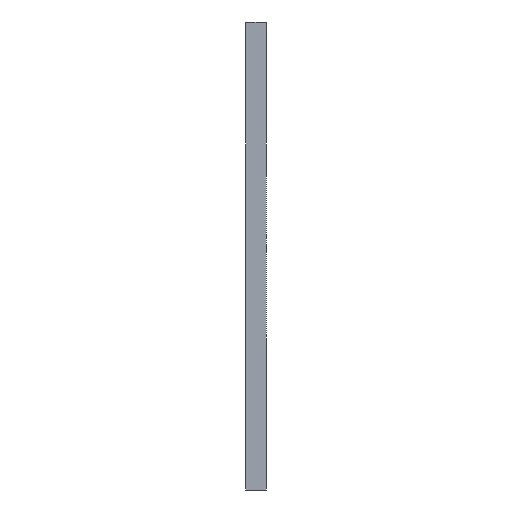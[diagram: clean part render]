
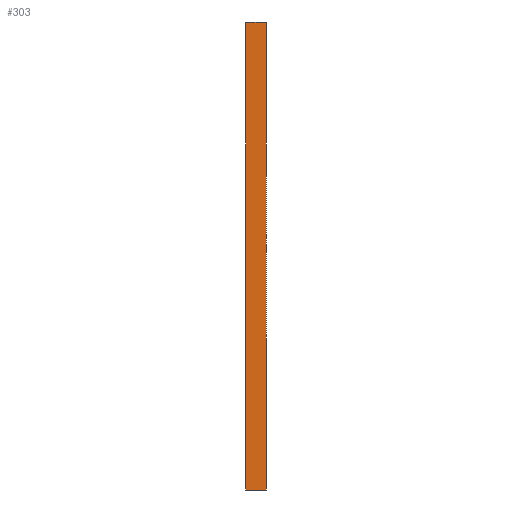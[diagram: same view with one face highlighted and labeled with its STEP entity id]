
A CAD part, left-side view. The second image highlights one B-rep face of the part: STEP entity #303.
In plain terms, the highlighted planar face has unit normal (-1, 0, 0).
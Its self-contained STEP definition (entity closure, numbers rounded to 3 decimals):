
#9 = VERTEX_POINT ( 'NONE', #1034 ) ;
#33 = EDGE_CURVE ( 'NONE', #895, #436, #853, .T. ) ;
#61 = EDGE_CURVE ( 'NONE', #539, #895, #1060, .T. ) ;
#150 = DIRECTION ( 'NONE',  ( 0., 1., 0. ) ) ;
#234 = EDGE_CURVE ( 'NONE', #9, #436, #673, .T. ) ;
#248 = PLANE ( 'NONE',  #888 ) ;
#259 = VECTOR ( 'NONE', #345, 1000. ) ;
#303 = ADVANCED_FACE ( 'NONE', ( #518 ), #248, .T. ) ;
#345 = DIRECTION ( 'NONE',  ( 0., 0., 1. ) ) ;
#365 = ORIENTED_EDGE ( 'NONE', *, *, #61, .T. ) ;
#436 = VERTEX_POINT ( 'NONE', #897 ) ;
#457 = DIRECTION ( 'NONE',  ( 0., 0., 1. ) ) ;
#490 = EDGE_CURVE ( 'NONE', #539, #9, #974, .T. ) ;
#518 = FACE_OUTER_BOUND ( 'NONE', #877, .T. ) ;
#539 = VERTEX_POINT ( 'NONE', #598 ) ;
#552 = CARTESIAN_POINT ( 'NONE',  ( -255.5, -20., -404. ) ) ;
#576 = ORIENTED_EDGE ( 'NONE', *, *, #33, .T. ) ;
#598 = CARTESIAN_POINT ( 'NONE',  ( -255.5, -20., -404. ) ) ;
#609 = CARTESIAN_POINT ( 'NONE',  ( -255.5, -20., 50. ) ) ;
#673 = LINE ( 'NONE', #1025, #259 ) ;
#707 = VECTOR ( 'NONE', #457, 1000. ) ;
#728 = ORIENTED_EDGE ( 'NONE', *, *, #490, .F. ) ;
#759 = ORIENTED_EDGE ( 'NONE', *, *, #234, .F. ) ;
#769 = DIRECTION ( 'NONE',  ( -1., 0., 0. ) ) ;
#828 = VECTOR ( 'NONE', #150, 1000. ) ;
#849 = CARTESIAN_POINT ( 'NONE',  ( -255.5, -20., 50. ) ) ;
#853 = LINE ( 'NONE', #609, #828 ) ;
#856 = CARTESIAN_POINT ( 'NONE',  ( -255.5, -20., -404. ) ) ;
#877 = EDGE_LOOP ( 'NONE', ( #759, #728, #365, #576 ) ) ;
#888 = AXIS2_PLACEMENT_3D ( 'NONE', #856, #769, #925 ) ;
#892 = DIRECTION ( 'NONE',  ( 0., 1., 0. ) ) ;
#895 = VERTEX_POINT ( 'NONE', #849 ) ;
#897 = CARTESIAN_POINT ( 'NONE',  ( -255.5, 0., 50. ) ) ;
#925 = DIRECTION ( 'NONE',  ( 0., 0., 1. ) ) ;
#957 = VECTOR ( 'NONE', #892, 1000. ) ;
#974 = LINE ( 'NONE', #552, #957 ) ;
#1025 = CARTESIAN_POINT ( 'NONE',  ( -255.5, 0., -404. ) ) ;
#1034 = CARTESIAN_POINT ( 'NONE',  ( -255.5, 0., -404. ) ) ;
#1060 = LINE ( 'NONE', #1067, #707 ) ;
#1067 = CARTESIAN_POINT ( 'NONE',  ( -255.5, -20., -404. ) ) ;
